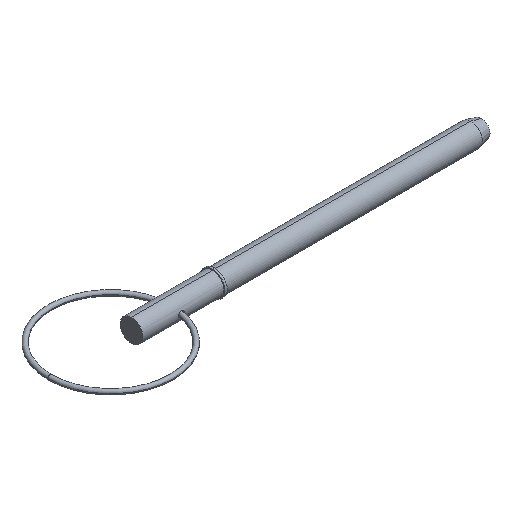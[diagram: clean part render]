
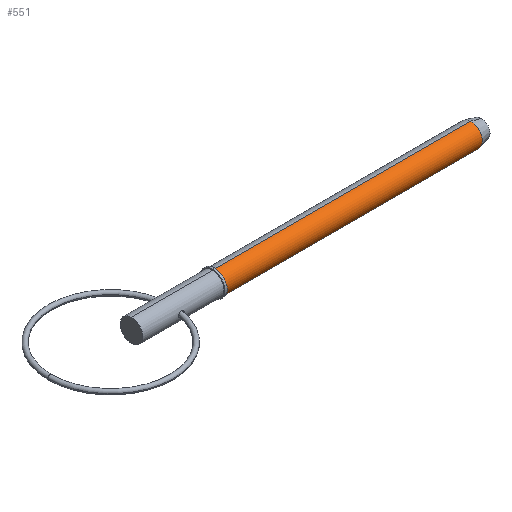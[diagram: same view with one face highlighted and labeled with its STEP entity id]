
A CAD part, isometric view. The second image highlights one B-rep face of the part: STEP entity #551.
In plain terms, the highlighted cylindrical face has radius 2.38 mm (diameter 4.76 mm), a partial arc.
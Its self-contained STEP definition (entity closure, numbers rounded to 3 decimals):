
#27 = DIRECTION ( 'NONE',  ( 0., 0., -1. ) ) ;
#89 = CARTESIAN_POINT ( 'NONE',  ( 71.109, 0., 2.38 ) ) ;
#130 = VECTOR ( 'NONE', #913, 1000. ) ;
#180 = AXIS2_PLACEMENT_3D ( 'NONE', #477, #779, #27 ) ;
#226 = CYLINDRICAL_SURFACE ( 'NONE', #508, 2.38 ) ;
#249 = EDGE_CURVE ( 'NONE', #759, #443, #343, .T. ) ;
#257 = CARTESIAN_POINT ( 'NONE',  ( 0., 0., -2.38 ) ) ;
#269 = DIRECTION ( 'NONE',  ( 1., 0., 0. ) ) ;
#290 = CIRCLE ( 'NONE', #180, 2.38 ) ;
#295 = VERTEX_POINT ( 'NONE', #381 ) ;
#310 = CARTESIAN_POINT ( 'NONE',  ( 71.109, 0., -2.38 ) ) ;
#312 = DIRECTION ( 'NONE',  ( 0., 0., -1. ) ) ;
#343 = LINE ( 'NONE', #257, #373 ) ;
#346 = ORIENTED_EDGE ( 'NONE', *, *, #871, .T. ) ;
#357 = VERTEX_POINT ( 'NONE', #89 ) ;
#373 = VECTOR ( 'NONE', #269, 1000. ) ;
#381 = CARTESIAN_POINT ( 'NONE',  ( 17.45, 0., 2.38 ) ) ;
#383 = DIRECTION ( 'NONE',  ( 0., 0., -1. ) ) ;
#399 = CARTESIAN_POINT ( 'NONE',  ( 17.45, 0., -2.38 ) ) ;
#427 = CIRCLE ( 'NONE', #662, 2.38 ) ;
#430 = EDGE_CURVE ( 'NONE', #357, #443, #427, .T. ) ;
#443 = VERTEX_POINT ( 'NONE', #310 ) ;
#447 = ORIENTED_EDGE ( 'NONE', *, *, #249, .T. ) ;
#477 = CARTESIAN_POINT ( 'NONE',  ( 17.45, 0., 0. ) ) ;
#508 = AXIS2_PLACEMENT_3D ( 'NONE', #518, #756, #383 ) ;
#516 = ORIENTED_EDGE ( 'NONE', *, *, #748, .F. ) ;
#518 = CARTESIAN_POINT ( 'NONE',  ( 0., 0., 0. ) ) ;
#551 = ADVANCED_FACE ( 'NONE', ( #680 ), #226, .T. ) ;
#563 = EDGE_LOOP ( 'NONE', ( #516, #346, #447, #721 ) ) ;
#662 = AXIS2_PLACEMENT_3D ( 'NONE', #747, #891, #312 ) ;
#680 = FACE_OUTER_BOUND ( 'NONE', #563, .T. ) ;
#701 = LINE ( 'NONE', #918, #130 ) ;
#721 = ORIENTED_EDGE ( 'NONE', *, *, #430, .F. ) ;
#747 = CARTESIAN_POINT ( 'NONE',  ( 71.109, 0., 0. ) ) ;
#748 = EDGE_CURVE ( 'NONE', #295, #357, #701, .T. ) ;
#756 = DIRECTION ( 'NONE',  ( 1., 0., 0. ) ) ;
#759 = VERTEX_POINT ( 'NONE', #399 ) ;
#779 = DIRECTION ( 'NONE',  ( 1., 0., 0. ) ) ;
#871 = EDGE_CURVE ( 'NONE', #295, #759, #290, .T. ) ;
#891 = DIRECTION ( 'NONE',  ( 1., 0., 0. ) ) ;
#913 = DIRECTION ( 'NONE',  ( 1., 0., 0. ) ) ;
#918 = CARTESIAN_POINT ( 'NONE',  ( 0., 0., 2.38 ) ) ;
